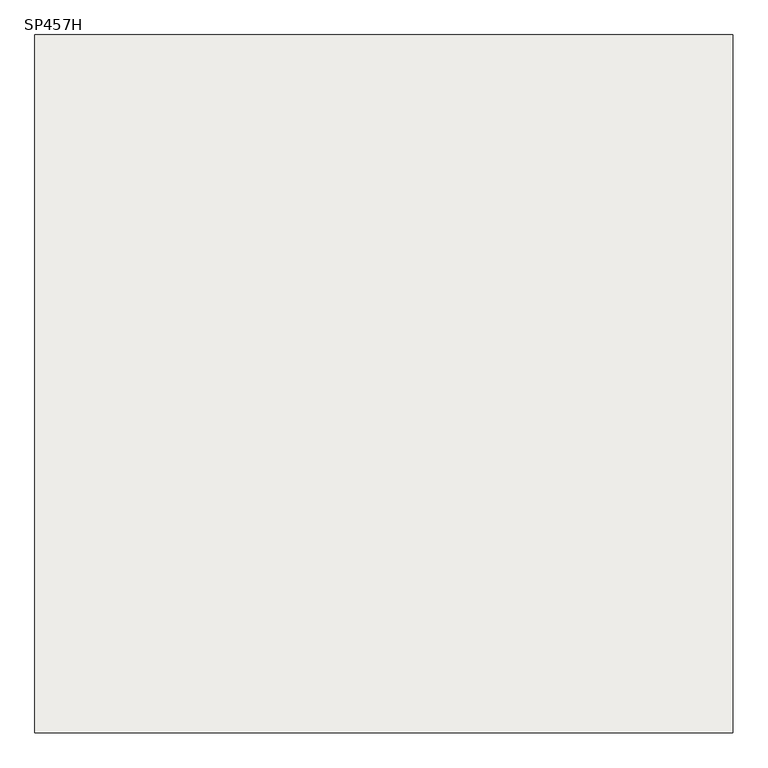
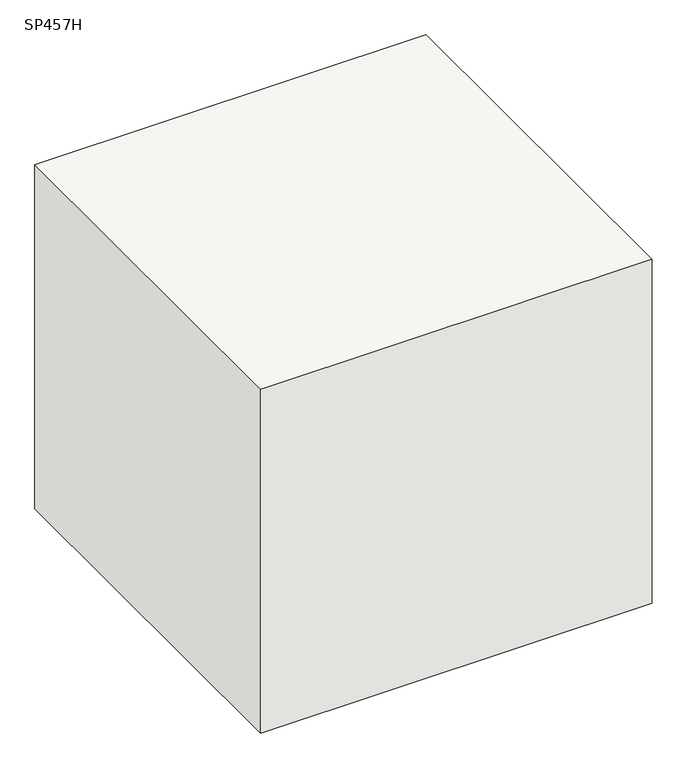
"""IFC4 building model written with IfcOpenShell, lengths in millimetres: slab geometry, 柱形_SP : SP457H."""

from ifc_helpers import new_model, si_unit, frame, origin, place, context, project, spatial, polyline, outline, extrude, source, transform, mapped, element, save


def sp457h_512797bb(model_context):
    return source(origin(), model_context, "Body", "SweptSolid", [
        extrude(outline(polyline([(565.0, 565.0), (565.0, -565.0), (-565.0, -565.0), (-565.0, 565.0), (565.0, 565.0)])), frame((0.0, 0.0, -1050.0), z_axis=(0.0, 0.0, 1.0), x_axis=(1.0, 0.0, 0.0)), (0.0, 0.0, 1.0), 1050.0),
    ])


if __name__ == "__main__":
    model = new_model("IFC4")
    model_context = context("Model", 3, world=origin())
    ifc_project = project(units=[si_unit("LENGTHUNIT", "METRE", prefix="MILLI")], contexts=[model_context])
    site = spatial("IfcSite", under=ifc_project)
    building = spatial("IfcBuilding", under=site)
    placement = place(None, origin())
    sp457h_shape = sp457h_512797bb(model_context)
    element("IfcSlab", 1, ObjectType="柱形_SP : SP457H", at=placement, inside=building, context=model_context, shape_type="MappedRepresentation", body=[
        mapped(sp457h_shape, transform((0.0, 0.0, 0.0), x_axis=(1.0, 0.0, 0.0), y_axis=(0.0, 1.0, 0.0), z_axis=(0.0, 0.0, 1.0))),
    ])
    save(model, "model.ifc")
